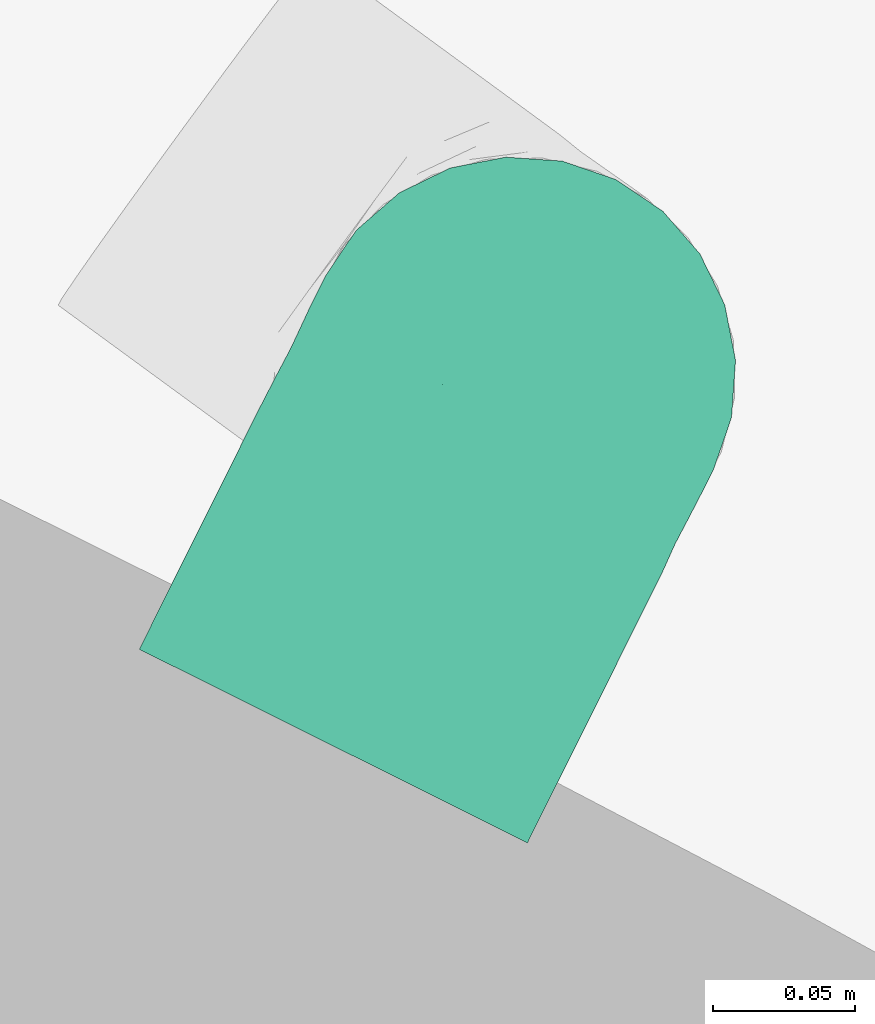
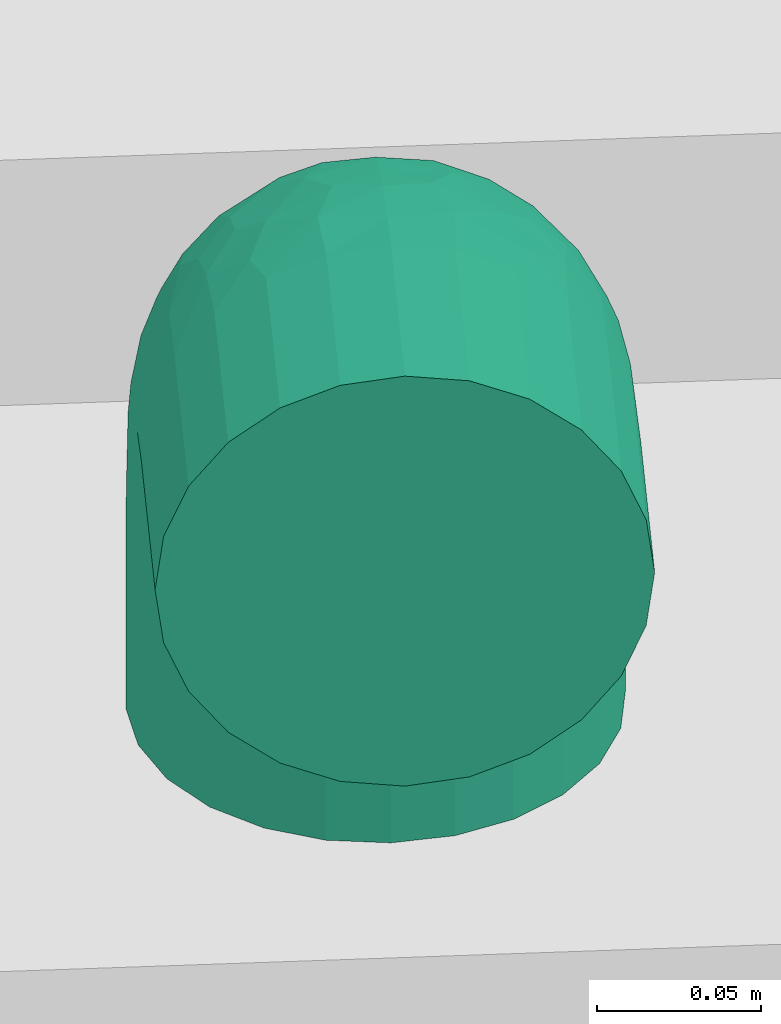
# One storey, part 87 of 91: 1 flow fitting.
"""IFC2X3 building model written with IfcOpenShell, lengths in metres."""

from ifc_helpers import new_model, entity, si_unit, converted_unit, derived_unit, direction, frame, origin, place, context, subcontext, project, spatial, faceted_brep, source, transform, mapped, type_object, type_shapes, element, save


model = new_model("IFC2X3")

# Units and contexts
model_context = context("Model", 3, precision=1e-05, world=origin(), true_north=direction((0.894925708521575, 0.446215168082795)))
context_of_model = context(None, 3, precision=1e-05, world=origin(), true_north=direction((0.894925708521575, 0.446215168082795)))
body_context = subcontext(model_context, "Body", "Model", "MODEL_VIEW")
ifc_project = project(units=[si_unit("LENGTHUNIT", "METRE"), si_unit("AREAUNIT", "SQUARE_METRE"), si_unit("VOLUMEUNIT", "CUBIC_METRE"), converted_unit("PLANEANGLEUNIT", "DEGREE", entity("IfcRatioMeasure", 0.0174532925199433), si_unit("PLANEANGLEUNIT", "RADIAN"), dimensions=[0, 0, 0, 0, 0, 0, 0]), si_unit("MASSUNIT", "GRAM", prefix="KILO"), si_unit("TIMEUNIT", "SECOND"), si_unit("FREQUENCYUNIT", "HERTZ"), si_unit("THERMODYNAMICTEMPERATUREUNIT", "DEGREE_CELSIUS"), derived_unit("THERMALTRANSMITTANCEUNIT", [(si_unit("MASSUNIT", "GRAM", prefix="KILO"), 1), (si_unit("THERMODYNAMICTEMPERATUREUNIT", "KELVIN"), -1), (si_unit("TIMEUNIT", "SECOND"), -3)]), derived_unit("VOLUMETRICFLOWRATEUNIT", [(si_unit("LENGTHUNIT", "METRE"), 3), (si_unit("TIMEUNIT", "SECOND"), -1)]), si_unit("ELECTRICCURRENTUNIT", "AMPERE"), si_unit("ELECTRICVOLTAGEUNIT", "VOLT"), si_unit("POWERUNIT", "WATT"), si_unit("FORCEUNIT", "NEWTON", prefix="KILO"), si_unit("ILLUMINANCEUNIT", "LUX"), si_unit("LUMINOUSFLUXUNIT", "LUMEN"), si_unit("LUMINOUSINTENSITYUNIT", "CANDELA"), si_unit("PRESSUREUNIT", "PASCAL")], contexts=[model_context, context_of_model])

# Site, building, storey
site_placement = place(None, frame((218.228324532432, 584.720189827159, 0.0), z_axis=(0.0, 0.0, 1.0), x_axis=(0.446215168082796, 0.894925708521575, 0.0)))
site = spatial("IfcSite", under=ifc_project, at=site_placement, Name="Default", CompositionType="ELEMENT")
building_placement = place(site_placement, origin())
building = spatial("IfcBuilding", under=site, at=building_placement, CompositionType="ELEMENT")
storey_placement = place(building_placement, origin())
storey = spatial("IfcBuildingStorey", under=building, at=storey_placement, Name="0 - Piano Terra", CompositionType="ELEMENT", Elevation=0.0)

# Flow fitting
pipe_fitting_type = type_object("IfcPipeFittingType", Name="Standard", PredefinedType="NOTDEFINED")
shared_shape = source(origin(), body_context, "Body", "Brep", [
    faceted_brep([(-0.146262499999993, 0.0197274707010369, -0.073623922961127), (-0.146262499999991, 0.0, -0.0762210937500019), (-0.14626249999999, -0.0197274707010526, -0.0736239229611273), (-0.146262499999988, -0.0381105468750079, -0.0660094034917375), (-0.146262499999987, -0.0538964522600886, -0.0538964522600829), (-0.146262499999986, -0.0660094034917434, -0.0381105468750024), (-0.146262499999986, -0.0736239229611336, -0.0197274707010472), (-0.146262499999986, -0.0762210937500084, 0.0), (-0.146262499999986, -0.0736239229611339, 0.0197274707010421), (-0.146262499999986, -0.0660094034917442, 0.0381105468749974), (-0.146262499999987, -0.0538964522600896, 0.0538964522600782), (-0.146262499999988, -0.0381105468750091, 0.0660094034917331), (-0.14626249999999, -0.0197274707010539, 0.0736239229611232), (-0.146262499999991, 0.0, 0.0762210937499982), (-0.146262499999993, 0.0197274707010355, 0.0736239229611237), (-0.146262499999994, 0.0381105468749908, 0.0660094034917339), (-0.146262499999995, 0.0538964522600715, 0.0538964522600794), (-0.146262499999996, 0.0660094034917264, 0.0381105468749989), (-0.146262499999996, 0.0736239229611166, 0.0197274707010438), (-0.146262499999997, 0.0762210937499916, 0.0), (-0.146262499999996, 0.073623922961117, -0.0197274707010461), (-0.146262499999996, 0.0660094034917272, -0.0381105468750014), (-0.146262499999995, 0.0538964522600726, -0.0538964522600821), (-0.146262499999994, 0.0381105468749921, -0.0660094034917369), (-0.0770148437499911, -0.073623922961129, 0.0197274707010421), (-0.0770148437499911, -0.0660094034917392, 0.0381105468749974), (-0.0770148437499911, -0.0762210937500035, 0.0), (-0.0770148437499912, -0.0538964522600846, 0.0538964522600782), (-0.0770148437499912, -0.0381105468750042, 0.0660094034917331), (-0.0770148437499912, -0.019727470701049, 0.0736239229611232), (-0.0770148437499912, 0.0, 0.0762210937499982), (-0.0770148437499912, 0.0197274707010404, 0.0736239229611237), (-0.0770148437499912, 0.0381105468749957, 0.0660094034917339), (-0.0770148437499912, 0.0538964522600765, 0.0538964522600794), (-0.0770148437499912, 0.0660094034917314, 0.0381105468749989), (-0.0770148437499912, 0.0736239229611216, 0.0197274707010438), (-0.0770148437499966, 0.0762210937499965, 0.0), (-0.0770148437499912, 0.0736239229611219, -0.0197274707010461), (-0.0770148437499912, 0.0660094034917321, -0.0381105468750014), (-0.0770148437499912, 0.0538964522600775, -0.0538964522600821), (-0.0770148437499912, 0.038110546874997, -0.0660094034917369), (-0.0770148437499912, 0.0197274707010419, -0.073623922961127), (-0.0770148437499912, 0.0, -0.0762210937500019), (-0.0770148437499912, -0.0197274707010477, -0.0736239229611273), (-0.0770148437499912, -0.038110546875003, -0.0660094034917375), (-0.0770148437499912, -0.0538964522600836, -0.0538964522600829), (-0.0770148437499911, -0.0660094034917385, -0.0381105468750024), (-0.0770148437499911, -0.0736239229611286, -0.0197274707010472), (-0.0520810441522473, -0.0505569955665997, 0.0548064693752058), (-0.0581764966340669, -0.0737409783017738, 0.0), (-0.0533988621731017, -0.0714082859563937, 0.0209852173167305), (-0.0381105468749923, 0.0770148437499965, 0.0660094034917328), (-0.0538964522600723, 0.0770148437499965, 0.0538964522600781), (-0.0427377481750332, 0.0610696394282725, 0.0653620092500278), (-0.0482782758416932, -0.0346319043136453, 0.065916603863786), (-0.0348056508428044, -0.0442921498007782, 0.0562586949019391), (-0.0373544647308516, -0.070999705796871, 0.0), (-0.0661107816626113, 0.0548848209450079, 0.0554051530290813), (-0.062317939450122, -0.0626908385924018, 0.0422168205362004), (0.0505569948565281, 0.0520810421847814, 0.0548064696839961), (0.0549238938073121, 0.0349470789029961, 0.0450702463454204), (0.0629512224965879, 0.042568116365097, 0.036104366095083), (-0.0240930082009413, 0.0542622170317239, 0.0737084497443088), (-0.0367768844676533, 0.0448915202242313, 0.0718194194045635), (-0.057999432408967, -0.0149385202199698, 0.0743275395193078), (-0.0327581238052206, -0.0680820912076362, 0.0152423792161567), (-0.0425681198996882, -0.0629512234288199, 0.0361043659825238), (-0.0275743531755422, 0.0291225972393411, 0.0757807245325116), (-0.0430655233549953, 0.0321579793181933, 0.073339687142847), (-0.0188756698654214, -0.0633455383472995, 0.0), (-0.000494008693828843, -0.0523752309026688, 0.020867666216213), (0.0127232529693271, -0.0432121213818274, 0.0218905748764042), (-0.00154630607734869, -0.0469037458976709, 0.0342830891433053), (-0.0516410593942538, 0.00410380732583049, 0.0762208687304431), (-0.0347679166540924, -0.0160061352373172, 0.0719522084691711), (-0.0579313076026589, 0.0243280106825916, 0.0732772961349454), (-0.0700388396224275, 0.0700388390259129, 0.0360642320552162), (-0.0197642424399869, -0.0318059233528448, 0.0608156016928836), (-0.0764535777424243, 0.0764535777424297, 0.0), (-0.0672483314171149, 0.0433805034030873, 0.0636112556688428), (0.0197274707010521, 0.0770148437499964, 0.0736239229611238), (0.0149385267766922, 0.0579994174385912, 0.074327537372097), (0.0346319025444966, 0.0482782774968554, 0.0659166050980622), (-0.0736239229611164, 0.0770148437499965, 0.0197274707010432), (-0.0197274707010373, 0.0770148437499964, 0.073623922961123), (-0.0044439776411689, 0.0553399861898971, 0.0762104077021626), (-0.0183543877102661, -0.0480770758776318, 0.0455032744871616), (-0.00460850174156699, -0.0403732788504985, 0.0458246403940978), (-0.0587428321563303, 0.0623044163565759, 0.0542336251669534), (0.0, 0.0770148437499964, 0.0762210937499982), (0.0595713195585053, 0.015380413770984, 0.0224701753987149), (0.0680820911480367, 0.0327581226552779, 0.0152423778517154), (0.0381105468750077, 0.0770148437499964, 0.0660094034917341), (0.0538964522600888, 0.0770148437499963, 0.0538964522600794), (0.0626908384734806, 0.0623179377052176, 0.0422168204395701), (0.066009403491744, 0.0770148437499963, 0.0381105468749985), (0.0318059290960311, 0.0197642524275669, 0.0608156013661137), (0.0160061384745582, 0.0347679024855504, 0.0719522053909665), (0.0714082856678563, 0.0533988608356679, 0.0209852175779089), (0.0736239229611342, 0.0770148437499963, 0.0197274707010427), (-0.0385610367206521, 0.0164002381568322, 0.0760413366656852), (0.0737409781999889, 0.0581764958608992, 0.0), (-0.0660094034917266, 0.0770148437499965, 0.0381105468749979), (0.0082866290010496, -0.0312047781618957, 0.0459920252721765), (0.0144562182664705, -0.0358951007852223, 0.0338398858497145), (0.0235252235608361, -0.0237544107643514, 0.0392597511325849), (-0.0245411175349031, 0.00528915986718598, 0.0752933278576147), (-0.0124029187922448, 0.0394317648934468, 0.0761873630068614), (-0.0762210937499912, 0.0770148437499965, 0.0), (0.0495494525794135, -0.00548885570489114, 0.0179972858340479), (0.0556913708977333, 0.00039687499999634, 0.0), (-0.00458526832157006, 0.0220234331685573, 0.0749382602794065), (0.0480770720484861, 0.0183543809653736, 0.0455032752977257), (0.0442921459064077, 0.034805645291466, 0.0562586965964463), (0.00202986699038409, 0.0376126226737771, 0.0753778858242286), (-0.050748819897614, 0.0540903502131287, 0.0635050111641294), (-0.00039687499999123, -0.055691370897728, 0.0), (-0.0153804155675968, -0.0595713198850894, 0.0224701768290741), (0.0709997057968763, 0.0373544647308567, 0.0), (0.0633455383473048, 0.0188756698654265, 0.0), (-0.0349470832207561, -0.0549238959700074, 0.0450702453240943), (-0.0534466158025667, 0.0430711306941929, 0.0673482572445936), (-0.0137040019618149, -0.0123368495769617, 0.0689481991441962), (0.0218635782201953, 0.00254507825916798, 0.0601848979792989), (0.01056726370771, 0.0137105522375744, 0.0696099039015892), (0.00568758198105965, -0.00568759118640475, 0.0649163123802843), (-0.00648368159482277, 0.00396440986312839, 0.0721665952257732), (0.0154712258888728, -0.0435153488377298, 0.0), (0.0376045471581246, -0.0226701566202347, 0.0141890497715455), (0.0259774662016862, -0.0307786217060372, 0.0248052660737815), (0.0313393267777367, -0.0313393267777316, 0.0), (0.0363982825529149, -0.0162746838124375, 0.0305359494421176), (0.0341753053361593, -0.00153000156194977, 0.0481097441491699), (0.0462972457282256, 0.000787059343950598, 0.0345200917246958), (-0.00130220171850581, -0.0225335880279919, 0.0591644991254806), (0.0165657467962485, -0.014937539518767, 0.0536095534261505), (0.0762210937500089, 0.0770148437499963, 0.0), (0.043515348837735, -0.0154712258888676, 0.0), (-0.0542622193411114, 0.0240930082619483, -0.0737084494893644), (0.0229956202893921, -0.0376094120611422, -0.012988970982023), (0.00572034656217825, -0.0502903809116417, -0.0145825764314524), (0.0134165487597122, -0.040600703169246, -0.0268188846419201), (-0.0579994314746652, -0.0149385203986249, -0.0743275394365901), (0.0273384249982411, -0.0287683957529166, -0.0261975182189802), (0.0372547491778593, -0.0232273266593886, -0.0136337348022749), (-0.0553399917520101, 0.00444397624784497, -0.0762104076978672), (-0.0197642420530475, -0.0318059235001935, -0.060815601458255), (-0.0183543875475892, -0.0480770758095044, -0.0455032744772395), (-0.0348056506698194, -0.0442921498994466, -0.0562586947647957), (-0.0700388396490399, 0.0700388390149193, -0.0360642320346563), (-0.0736239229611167, 0.0770148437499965, -0.0197274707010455), (0.0318059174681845, 0.0197642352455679, -0.0608156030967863), (0.0160061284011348, 0.0347679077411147, -0.0719522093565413), (0.0346319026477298, 0.0482782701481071, -0.0659166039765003), (-0.0433805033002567, 0.0672483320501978, -0.0636112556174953), (-0.0538964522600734, 0.0770148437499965, -0.0538964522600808), (-0.0381105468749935, 0.0770148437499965, -0.0660094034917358), (-0.0197274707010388, 0.0770148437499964, -0.0736239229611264), (-0.0243280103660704, 0.0579313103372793, -0.0732772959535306), (-0.044891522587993, 0.0367768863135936, -0.0718194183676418), (-0.0291226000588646, 0.0275743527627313, -0.0757807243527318), (-0.0321579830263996, 0.043065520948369, -0.0733396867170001), (-0.016400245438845, 0.0385610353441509, -0.0760413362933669), (-0.0349470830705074, -0.0549238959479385, -0.0450702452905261), (-0.0153804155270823, -0.0595713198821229, -0.0224701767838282), (-0.0425681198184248, -0.0629512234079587, -0.0361043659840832), (-0.0220234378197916, 0.00458526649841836, -0.0749382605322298), (-0.00528916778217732, 0.0245411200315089, -0.075293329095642), (-0.0533988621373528, -0.0714082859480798, -0.0209852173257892), (-0.0623044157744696, 0.0587428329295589, -0.0542336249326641), (-0.0520810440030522, -0.0505569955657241, -0.0548064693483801), (-0.0482782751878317, -0.0346319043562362, -0.0659166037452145), (-0.03275812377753, -0.0680820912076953, -0.0152423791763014), (-0.0548848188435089, 0.0661107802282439, -0.055405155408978), (-0.0660094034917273, 0.0770148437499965, -0.0381105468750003), (-0.0623179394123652, -0.0626908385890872, -0.0422168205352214), (-0.0610696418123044, 0.0427377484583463, -0.0653620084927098), (0.0680820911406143, 0.0327581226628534, -0.0152423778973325), (0.0381105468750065, 0.0770148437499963, -0.0660094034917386), (0.0538964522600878, 0.0770148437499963, -0.0538964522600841), (0.0505569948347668, 0.0520810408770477, -0.0548064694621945), (-0.0376126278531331, -0.00202986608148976, -0.0753778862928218), (-0.004103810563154, 0.0516410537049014, -0.0762208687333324), (0.0736239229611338, 0.0770148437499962, -0.0197274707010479), (0.0714082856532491, 0.0533988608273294, -0.0209852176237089), (0.0660094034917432, 0.0770148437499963, -0.0381105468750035), (-0.0347679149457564, -0.016006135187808, -0.071952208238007), (0.0, 0.0770148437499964, -0.0762210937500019), (0.0149385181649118, 0.0579994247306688, -0.0743275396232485), (0.0388453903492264, -0.0146567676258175, -0.0284169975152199), (0.0197274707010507, 0.0770148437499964, -0.0736239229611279), (0.0233851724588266, -0.022414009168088, -0.0409489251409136), (0.0629512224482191, 0.0425681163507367, -0.036104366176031), (0.0626908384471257, 0.0623179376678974, -0.0422168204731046), (0.0442921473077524, 0.0348056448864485, -0.0562586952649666), (-0.0394317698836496, 0.0124029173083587, -0.0761873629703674), (-0.0540903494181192, 0.0507488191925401, -0.0635050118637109), (0.0595713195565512, 0.0153804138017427, -0.0224701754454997), (0.0549238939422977, 0.0349470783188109, -0.0450702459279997), (-0.0430711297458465, 0.0534466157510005, -0.0673482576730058), (0.0151350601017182, 0.0132522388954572, -0.0676871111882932), (-0.00283799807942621, 0.00709552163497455, -0.0720319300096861), (0.00568758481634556, -0.00568758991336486, -0.0649163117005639), (-0.00432538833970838, -0.0208821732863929, -0.0615795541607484), (-0.0122957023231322, -0.00848411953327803, -0.0699756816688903), (-0.00357227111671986, -0.0501017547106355, -0.0306372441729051), (0.00376590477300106, -0.0332445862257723, -0.0474255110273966), (0.0480770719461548, 0.0183543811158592, -0.0455032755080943), (0.0337277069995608, -0.00262047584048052, -0.0477780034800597), (0.0481499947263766, -0.00850311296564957, -0.0157539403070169), (0.0491633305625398, 0.00291355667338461, -0.0317067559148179), (0.0125826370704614, -0.0179154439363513, -0.054269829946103), (0.0216790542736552, -0.000443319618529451, -0.0588447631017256), (0.0, 0.146262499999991, -0.0762210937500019), (-0.0197274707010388, 0.146262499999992, -0.073623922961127), (-0.038110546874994, 0.146262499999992, -0.0660094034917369), (-0.0538964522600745, 0.146262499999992, -0.0538964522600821), (-0.0660094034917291, 0.146262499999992, -0.0381105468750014), (-0.0736239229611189, 0.146262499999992, -0.0197274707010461), (-0.0762210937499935, 0.146262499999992, 0.0), (-0.0736239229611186, 0.146262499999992, 0.0197274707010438), (-0.0660094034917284, 0.146262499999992, 0.0381105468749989), (-0.0538964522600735, 0.146262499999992, 0.0538964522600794), (-0.0381105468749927, 0.146262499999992, 0.0660094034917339), (-0.0197274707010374, 0.146262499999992, 0.0736239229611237), (0.0, 0.146262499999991, 0.0762210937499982), (0.019727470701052, 0.146262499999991, 0.0736239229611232), (0.0381105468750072, 0.146262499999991, 0.0660094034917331), (0.0538964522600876, 0.146262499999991, 0.0538964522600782), (0.0660094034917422, 0.146262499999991, 0.0381105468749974), (0.073623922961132, 0.146262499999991, 0.0197274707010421), (0.0762210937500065, 0.146262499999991, 0.0), (0.0736239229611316, 0.146262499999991, -0.0197274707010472), (0.0660094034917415, 0.146262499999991, -0.0381105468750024), (0.0538964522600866, 0.146262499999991, -0.0538964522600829), (0.038110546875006, 0.146262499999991, -0.0660094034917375), (0.0197274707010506, 0.146262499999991, -0.0736239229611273)], [[[0, 1, 2, 3, 4, 5, 6, 7, 8, 9, 10, 11, 12, 13, 14, 15, 16, 17, 18, 19, 20, 21, 22, 23]], [[24, 25, 9, 8]], [[26, 24, 8, 7]], [[11, 10, 27, 28]], [[25, 27, 10, 9]], [[29, 12, 11, 28]], [[29, 30, 13, 12]], [[15, 14, 31, 32]], [[33, 16, 15, 32]], [[18, 17, 34, 35]], [[33, 34, 17, 16]], [[19, 18, 35, 36]], [[31, 14, 13, 30]], [[20, 19, 36, 37]], [[38, 21, 20, 37]], [[23, 22, 39, 40]], [[38, 39, 22, 21]], [[0, 23, 40, 41]], [[41, 42, 1, 0]], [[3, 2, 43, 44]], [[45, 4, 3, 44]], [[6, 5, 46, 47]], [[45, 46, 5, 4]], [[7, 6, 47, 26]], [[43, 2, 1, 42]], [[28, 27, 48]], [[49, 50, 24]], [[51, 52, 53]], [[54, 48, 55]], [[56, 50, 49]], [[57, 34, 33]], [[58, 27, 25]], [[59, 60, 61]], [[62, 53, 63]], [[28, 48, 54]], [[64, 30, 29]], [[50, 65, 66]], [[67, 63, 68]], [[69, 65, 56]], [[70, 71, 72]], [[30, 73, 31]], [[54, 74, 64]], [[31, 73, 75]], [[73, 30, 64]], [[53, 62, 51]], [[29, 28, 54]], [[34, 76, 35]], [[54, 55, 77]], [[78, 36, 35]], [[57, 33, 79]], [[80, 81, 82]], [[83, 78, 35]], [[84, 62, 85]], [[86, 72, 87]], [[52, 88, 53]], [[24, 50, 25]], [[85, 81, 89]], [[61, 90, 91]], [[92, 59, 93]], [[93, 94, 95]], [[92, 80, 82]], [[96, 82, 97]], [[98, 99, 95]], [[67, 68, 100]], [[82, 59, 92]], [[60, 90, 61]], [[98, 101, 99]], [[76, 88, 102]], [[103, 104, 105]], [[88, 52, 102]], [[62, 63, 67]], [[106, 73, 74]], [[35, 76, 83]], [[107, 85, 62]], [[108, 78, 83]], [[90, 109, 110]], [[85, 89, 84]], [[31, 75, 32]], [[67, 106, 111]], [[77, 74, 54]], [[79, 33, 32]], [[84, 51, 62]], [[96, 112, 113]], [[107, 67, 111]], [[89, 81, 80]], [[85, 114, 81]], [[115, 53, 88]], [[116, 117, 69]], [[58, 50, 66]], [[94, 98, 95]], [[118, 91, 119]], [[113, 59, 82]], [[94, 59, 61]], [[58, 48, 27]], [[120, 48, 66]], [[106, 67, 100]], [[79, 75, 121]], [[76, 34, 57]], [[102, 83, 76]], [[122, 74, 77]], [[123, 124, 125]], [[106, 122, 126]], [[111, 114, 107]], [[65, 50, 56]], [[127, 70, 116]], [[120, 117, 86]], [[128, 129, 130]], [[70, 72, 117]], [[128, 109, 131]], [[112, 96, 132]], [[119, 90, 110]], [[98, 91, 118]], [[109, 133, 131]], [[111, 126, 124]], [[132, 131, 133]], [[72, 71, 104]], [[77, 134, 122]], [[104, 71, 129]], [[103, 135, 134]], [[125, 135, 123]], [[135, 103, 105]], [[69, 117, 65]], [[66, 65, 117]], [[61, 91, 98]], [[90, 119, 91]], [[24, 26, 49]], [[101, 98, 118]], [[101, 136, 99]], [[82, 81, 97]], [[54, 64, 29]], [[73, 64, 74]], [[133, 90, 112]], [[109, 128, 137]], [[137, 128, 130]], [[137, 110, 109]], [[129, 128, 131]], [[129, 131, 105]], [[129, 71, 130]], [[131, 132, 105]], [[135, 125, 134]], [[105, 132, 135]], [[123, 132, 96]], [[134, 125, 122]], [[134, 77, 87]], [[126, 122, 125]], [[106, 74, 122]], [[132, 123, 135]], [[124, 96, 97]], [[96, 124, 123]], [[114, 124, 97]], [[124, 126, 125]], [[106, 126, 111]], [[90, 133, 109]], [[132, 133, 112]], [[105, 104, 129]], [[87, 72, 104]], [[87, 104, 103]], [[117, 72, 86]], [[117, 116, 70]], [[127, 130, 71]], [[115, 63, 53]], [[68, 63, 121]], [[121, 75, 68]], [[100, 75, 73]], [[75, 100, 68]], [[73, 106, 100]], [[67, 107, 62]], [[111, 124, 114]], [[81, 114, 97]], [[85, 107, 114]], [[134, 87, 103]], [[77, 86, 87]], [[75, 79, 32]], [[121, 115, 57]], [[121, 57, 79]], [[57, 88, 76]], [[50, 58, 25]], [[48, 58, 66]], [[59, 94, 93]], [[98, 94, 61]], [[57, 115, 88]], [[63, 115, 121]], [[96, 113, 82]], [[60, 113, 112]], [[113, 60, 59]], [[90, 60, 112]], [[117, 120, 66]], [[55, 120, 86]], [[120, 55, 48]], [[77, 55, 86]], [[70, 127, 71]], [[41, 40, 138]], [[139, 140, 141]], [[43, 42, 142]], [[143, 144, 139]], [[42, 41, 145]], [[146, 147, 148]], [[149, 37, 150]], [[151, 152, 153]], [[154, 155, 156]], [[157, 158, 156]], [[159, 160, 138]], [[160, 161, 162]], [[163, 164, 165]], [[166, 160, 167]], [[46, 168, 47]], [[149, 169, 38]], [[168, 49, 47]], [[160, 159, 161]], [[170, 44, 171]], [[170, 163, 165]], [[164, 172, 165]], [[44, 43, 171]], [[173, 174, 155]], [[175, 46, 45]], [[40, 39, 176]], [[45, 44, 170]], [[119, 177, 118]], [[178, 179, 180]], [[37, 36, 78]], [[145, 181, 142]], [[78, 108, 150]], [[167, 182, 152]], [[38, 37, 149]], [[183, 184, 185]], [[146, 171, 186]], [[154, 173, 155]], [[182, 187, 188]], [[143, 189, 144]], [[182, 157, 187]], [[153, 152, 188]], [[138, 40, 176]], [[182, 158, 157]], [[190, 178, 153]], [[190, 188, 187]], [[191, 143, 141]], [[43, 142, 171]], [[183, 136, 101]], [[177, 192, 184]], [[193, 179, 185]], [[178, 180, 153]], [[184, 183, 101]], [[39, 38, 169]], [[184, 101, 118]], [[153, 194, 151]], [[195, 145, 138]], [[153, 180, 194]], [[41, 138, 145]], [[138, 176, 159]], [[196, 176, 169]], [[150, 37, 78]], [[195, 160, 166]], [[39, 169, 176]], [[175, 168, 46]], [[56, 172, 69]], [[110, 197, 119]], [[193, 184, 192]], [[148, 170, 171]], [[175, 170, 165]], [[193, 180, 179]], [[198, 180, 192]], [[167, 160, 162]], [[154, 158, 199]], [[150, 174, 149]], [[149, 174, 173]], [[167, 200, 201]], [[202, 203, 204]], [[204, 201, 202]], [[166, 181, 195]], [[69, 164, 116]], [[168, 172, 56]], [[205, 141, 140]], [[206, 147, 146]], [[151, 207, 208]], [[141, 206, 191]], [[197, 209, 210]], [[177, 184, 118]], [[197, 110, 209]], [[198, 197, 207]], [[181, 204, 186]], [[206, 141, 205]], [[202, 211, 203]], [[208, 191, 211]], [[207, 210, 208]], [[201, 200, 202]], [[191, 208, 189]], [[200, 212, 202]], [[165, 172, 168]], [[164, 69, 172]], [[119, 197, 177]], [[192, 177, 197]], [[49, 168, 56]], [[49, 26, 47]], [[191, 189, 143]], [[211, 191, 206]], [[145, 142, 42]], [[171, 142, 186]], [[153, 188, 190]], [[182, 188, 152]], [[203, 206, 146]], [[211, 202, 212]], [[206, 203, 211]], [[204, 146, 186]], [[204, 203, 146]], [[201, 166, 167]], [[166, 201, 204]], [[200, 167, 152]], [[152, 151, 200]], [[212, 151, 208]], [[151, 212, 200]], [[211, 212, 208]], [[196, 159, 176]], [[161, 159, 199]], [[199, 158, 161]], [[162, 158, 182]], [[158, 162, 161]], [[182, 167, 162]], [[209, 137, 144]], [[130, 139, 144]], [[209, 144, 189]], [[143, 139, 141]], [[137, 130, 144]], [[209, 189, 210]], [[110, 137, 209]], [[208, 210, 189]], [[197, 210, 207]], [[116, 164, 140]], [[140, 127, 116]], [[205, 140, 164]], [[130, 127, 139]], [[140, 139, 127]], [[164, 147, 205]], [[206, 205, 147]], [[160, 195, 138]], [[166, 204, 181]], [[142, 181, 186]], [[145, 195, 181]], [[158, 154, 156]], [[199, 196, 173]], [[199, 173, 154]], [[173, 169, 149]], [[170, 175, 45]], [[168, 175, 165]], [[184, 193, 185]], [[180, 193, 192]], [[173, 196, 169]], [[159, 196, 199]], [[146, 148, 171]], [[163, 148, 147]], [[148, 163, 170]], [[164, 163, 147]], [[197, 198, 192]], [[194, 198, 207]], [[198, 194, 180]], [[151, 194, 207]], [[213, 214, 215, 216, 217, 218, 219, 220, 221, 222, 223, 224, 225, 226, 227, 228, 229, 230, 231, 232, 233, 234, 235, 236]], [[230, 229, 95, 99]], [[231, 230, 99, 136]], [[92, 93, 228, 227]], [[229, 228, 93, 95]], [[226, 80, 92, 227]], [[226, 225, 89, 80]], [[51, 84, 224, 223]], [[222, 52, 51, 223]], [[83, 102, 221, 220]], [[222, 221, 102, 52]], [[108, 83, 220, 219]], [[224, 84, 89, 225]], [[150, 108, 219, 218]], [[217, 174, 150, 218]], [[156, 155, 216, 215]], [[217, 216, 155, 174]], [[157, 156, 215, 214]], [[214, 213, 187, 157]], [[178, 190, 236, 235]], [[234, 179, 178, 235]], [[183, 185, 233, 232]], [[234, 233, 185, 179]], [[136, 183, 232, 231]], [[236, 190, 187, 213]]]),
])
type_shapes(pipe_fitting_type, [shared_shape])
flow_fitting_placement = place(storey_placement, frame((-68.4824064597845, -3.8858460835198, 9.81000000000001), z_axis=(0.0, -1.0, 0.0), x_axis=(0.0, 0.0, 1.0)))
element("IfcFlowFitting", 1, at=flow_fitting_placement, inside=storey, type_object=pipe_fitting_type, Name="M_Gomito - PVC - Sch 40:Standard", ObjectType="Standard", context=body_context, shape_type="MappedRepresentation", body=[
    mapped(shared_shape, transform((0.0, 0.0, 0.0), scale=1.0)),
])

save(model, "model.ifc")
